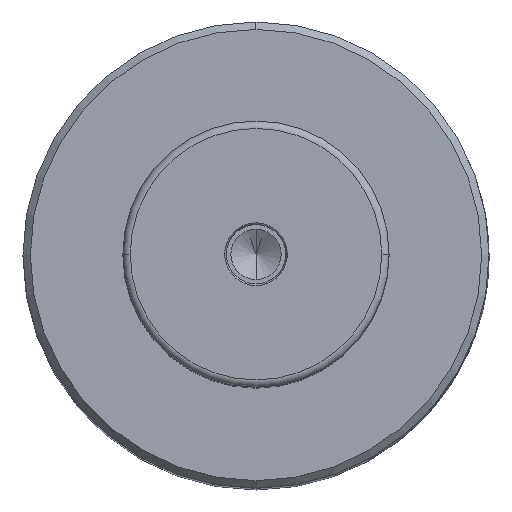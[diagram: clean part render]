
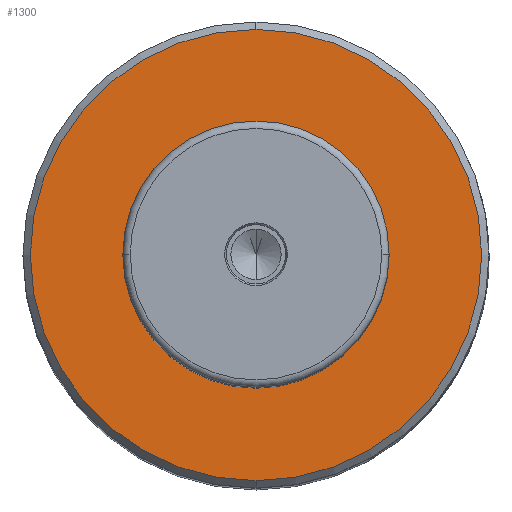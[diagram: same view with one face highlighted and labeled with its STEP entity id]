
A CAD part, top view. The second image highlights one B-rep face of the part: STEP entity #1300.
In plain terms, the highlighted planar face has unit normal (0, 0, 1).
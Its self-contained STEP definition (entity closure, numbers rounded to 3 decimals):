
#1124 = VERTEX_POINT('',#1125);
#1125 = CARTESIAN_POINT('',(0.,30.5,147.));
#1131 = EDGE_CURVE('',#1132,#1124,#1134,.T.);
#1132 = VERTEX_POINT('',#1133);
#1133 = CARTESIAN_POINT('',(0.,-30.5,147.));
#1134 = CIRCLE('',#1135,30.5);
#1135 = AXIS2_PLACEMENT_3D('',#1136,#1137,#1138);
#1136 = CARTESIAN_POINT('',(0.,0.,147.));
#1137 = DIRECTION('',(0.,0.,1.));
#1138 = DIRECTION('',(0.,1.,0.));
#1158 = EDGE_CURVE('',#1124,#1132,#1159,.T.);
#1159 = CIRCLE('',#1160,30.5);
#1160 = AXIS2_PLACEMENT_3D('',#1161,#1162,#1163);
#1161 = CARTESIAN_POINT('',(0.,0.,147.));
#1162 = DIRECTION('',(0.,0.,1.));
#1163 = DIRECTION('',(0.,1.,0.));
#1300 = ADVANCED_FACE('',(#1301,#1321),#1325,.T.);
#1301 = FACE_BOUND('',#1302,.T.);
#1302 = EDGE_LOOP('',(#1303,#1314));
#1303 = ORIENTED_EDGE('',*,*,#1304,.F.);
#1304 = EDGE_CURVE('',#1305,#1307,#1309,.T.);
#1305 = VERTEX_POINT('',#1306);
#1306 = CARTESIAN_POINT('',(0.,18.,147.));
#1307 = VERTEX_POINT('',#1308);
#1308 = CARTESIAN_POINT('',(0.,-18.,147.));
#1309 = CIRCLE('',#1310,18.);
#1310 = AXIS2_PLACEMENT_3D('',#1311,#1312,#1313);
#1311 = CARTESIAN_POINT('',(0.,0.,147.));
#1312 = DIRECTION('',(0.,0.,1.));
#1313 = DIRECTION('',(0.,1.,0.));
#1314 = ORIENTED_EDGE('',*,*,#1315,.F.);
#1315 = EDGE_CURVE('',#1307,#1305,#1316,.T.);
#1316 = CIRCLE('',#1317,18.);
#1317 = AXIS2_PLACEMENT_3D('',#1318,#1319,#1320);
#1318 = CARTESIAN_POINT('',(0.,0.,147.));
#1319 = DIRECTION('',(0.,0.,1.));
#1320 = DIRECTION('',(0.,1.,0.));
#1321 = FACE_BOUND('',#1322,.T.);
#1322 = EDGE_LOOP('',(#1323,#1324));
#1323 = ORIENTED_EDGE('',*,*,#1158,.T.);
#1324 = ORIENTED_EDGE('',*,*,#1131,.T.);
#1325 = PLANE('',#1326);
#1326 = AXIS2_PLACEMENT_3D('',#1327,#1328,#1329);
#1327 = CARTESIAN_POINT('',(0.,24.25,147.));
#1328 = DIRECTION('',(0.,0.,1.));
#1329 = DIRECTION('',(0.,1.,0.));
